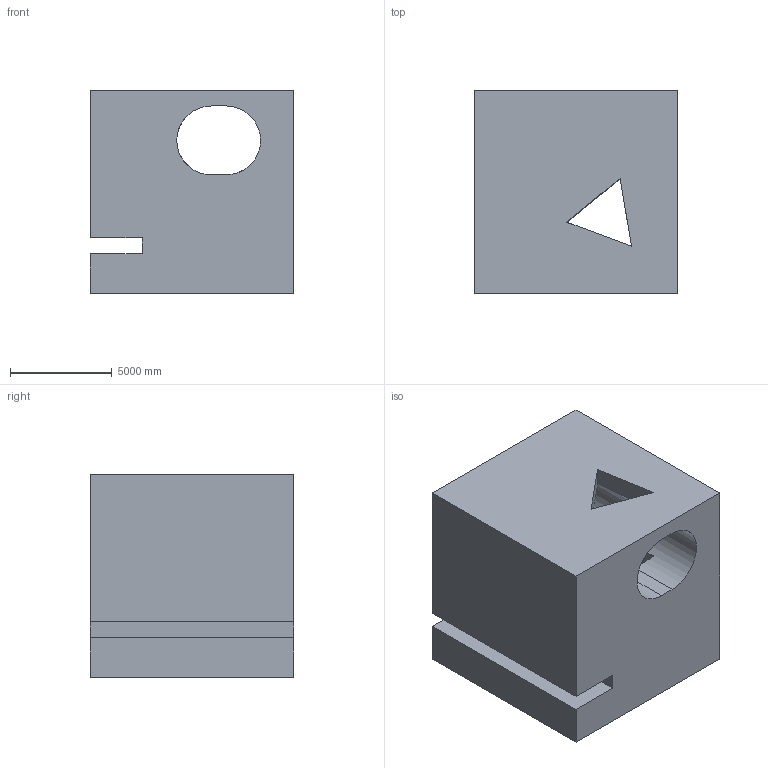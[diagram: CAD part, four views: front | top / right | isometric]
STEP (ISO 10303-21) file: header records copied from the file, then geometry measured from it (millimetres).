
FILE_DESCRIPTION (( 'STEP AP203' ), '1' );
FILE_NAME ('34.STEP', '2022-08-30T14:06:39', ( 'user' ), ( '' ), 'SwSTEP 2.0', 'SolidWorks 2021', '' );
FILE_SCHEMA (( 'CONFIG_CONTROL_DESIGN' ));
Length unit declared in the file: centimetre
Products named in the file (1): 34
Bounding box: 10000 x 10000 x 10000 mm (x, y, z)
Volume: 815127434759.2 mm3; surface area: 821157564.6 mm2
Topology: 1 solids, 1 shells, 27 faces, 81 edges, 54 vertices
Faces by surface type: plane 25, cylinder 2
Entity records: 989 total; most frequent: CARTESIAN_POINT 193, ORIENTED_EDGE 162, DIRECTION 132, EDGE_CURVE 81, LINE 66, VECTOR 66, VERTEX_POINT 54, AXIS2_PLACEMENT_3D 33
